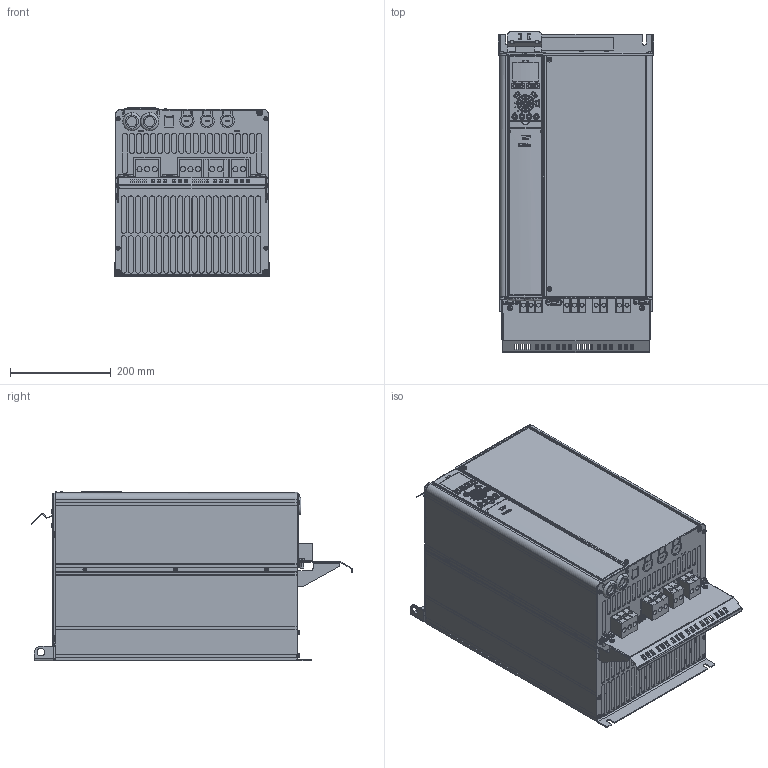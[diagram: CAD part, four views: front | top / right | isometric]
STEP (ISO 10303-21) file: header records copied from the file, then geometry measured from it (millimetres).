
FILE_DESCRIPTION((''),'2;1');
FILE_NAME('DANFOSS-FC100-C3-IP20-OPT-124','2007-07-05T',('Naushad.pm'),('dan Drives A/S'),'PRO/ENGINEER BY PARAMETRIC TECHNOLOGY CORPORATION, 2006200','PRO/ENGINEER BY PARAMETRIC TECHNOLOGY CORPORATION, 2006200','');
FILE_SCHEMA(('CONFIG_CONTROL_DESIGN', 'GEOMETRIC_VALIDATION_PROPERTIES_MIM'));
Products named in the file (1): DANFOSS-FC100-C3-IP20-OPT-124
Bounding box: 308 x 636 x 335.51 mm (x, y, z)
Volume: 45292610.4 mm3; surface area: 2013760.8 mm2
Topology: 1 solids, 39 shells, 5963 faces, 16300 edges, 10519 vertices
Faces by surface type: plane 3349, cylinder 1599, bspline 610, torus 144, cone 98, extrusion 88, sphere 75
Entity records: 283868 total; most frequent: CARTESIAN_POINT 119674, ORIENTED_EDGE 32434, DIRECTION 27227, EDGE_CURVE 16217, VERTEX_POINT 10519, AXIS2_PLACEMENT_3D 9225, VECTOR 8777, LINE 8689
